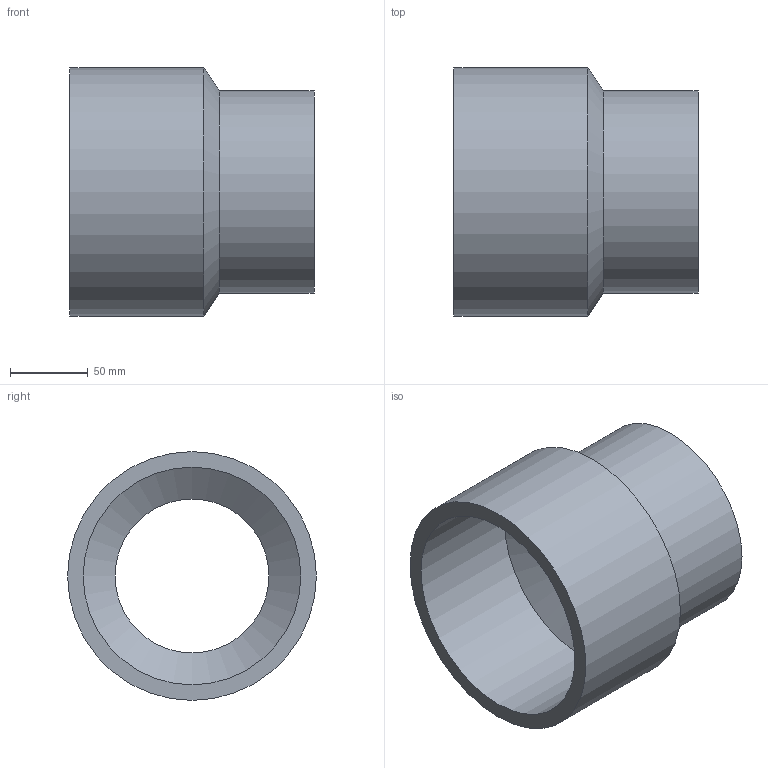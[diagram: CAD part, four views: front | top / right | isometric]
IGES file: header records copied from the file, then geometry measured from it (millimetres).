
Global section: file name: 050200160110.ipt; native system: Autodesk Inventor 2015; preprocessor: unknown; author: KIM; date: 20171207.164239; units: millimetre
Bounding box: 157 x 160 x 160 mm (x, y, z)
Volume: 751350.5 mm3; surface area: 152367.3 mm2
Topology: 1 solids, 1 shells, 10 faces, 23 edges, 16 vertices
Faces by surface type: revolution 4, plane 3, cylinder 2, cone 1
Full cylindrical faces by diameter (mm): 130 x1, 160 x1
